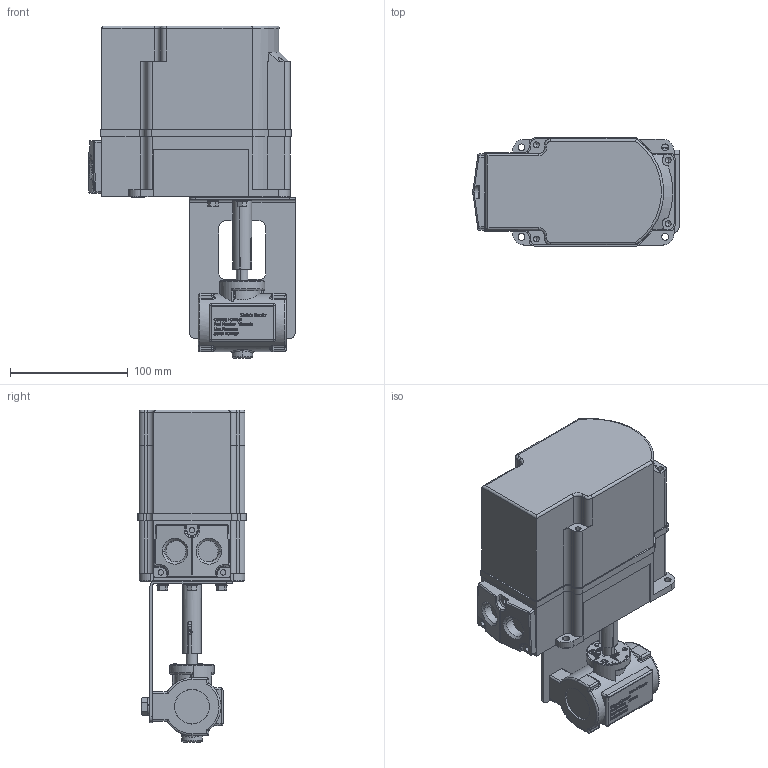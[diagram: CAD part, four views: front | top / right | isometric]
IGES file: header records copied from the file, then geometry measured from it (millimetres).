
Global section: file name: No Iges File Name specified; native system: AutoDesk Inventor R12.0; preprocessor: AutoDesk Inventor Iges Exporter R12.0; date: 20110328.091540; units: millimetre
Bounding box: 175.49 x 92 x 282 mm (x, y, z)
Volume: 2049627.6 mm3; surface area: 164511.1 mm2
Topology: 1 solids, 15 shells, 2806 faces, 7514 edges, 4901 vertices
Faces by surface type: plane 1483, bspline 958, cylinder 188, revolution 91, cone 47, torus 29, sphere 10
Full cylindrical faces by diameter (mm): 9.2 x3, 14.8 x2
